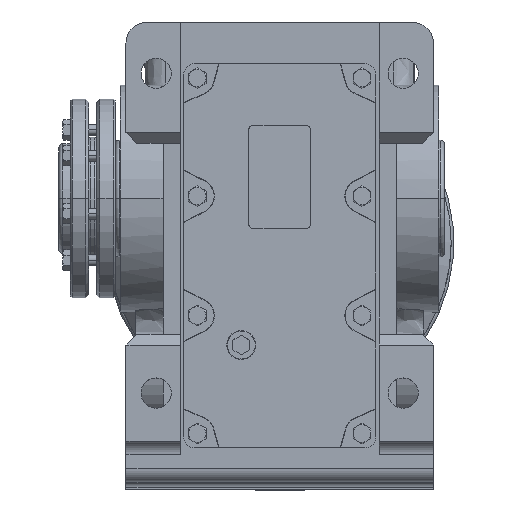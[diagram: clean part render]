
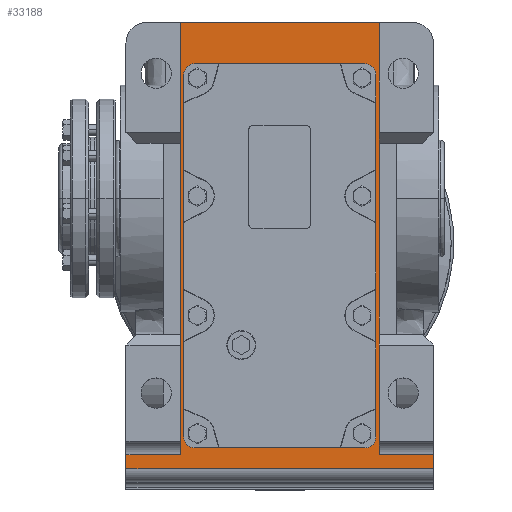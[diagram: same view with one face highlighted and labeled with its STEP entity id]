
A CAD part, top view. The second image highlights one B-rep face of the part: STEP entity #33188.
In plain terms, the highlighted planar face has unit normal (0, 0, 1).
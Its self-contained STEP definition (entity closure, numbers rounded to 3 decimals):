
#5424 = AXIS2_PLACEMENT_3D ( 'NONE', #39892, #39895, #39897 ) ;
#5425 = AXIS2_PLACEMENT_3D ( 'NONE', #39922, #39923, #39924 ) ;
#5426 = AXIS2_PLACEMENT_3D ( 'NONE', #39938, #39940, #39942 ) ;
#5427 = AXIS2_PLACEMENT_3D ( 'NONE', #39954, #39956, #39957 ) ;
#6303 = FACE_BOUND ( 'NONE', #50389, .T. ) ;
#6306 = FACE_OUTER_BOUND ( 'NONE', #50384, .T. ) ;
#11517 = VERTEX_POINT ( 'NONE', #33494 ) ;
#11524 = VERTEX_POINT ( 'NONE', #33501 ) ;
#11526 = VERTEX_POINT ( 'NONE', #33504 ) ;
#11527 = VERTEX_POINT ( 'NONE', #33506 ) ;
#11530 = VERTEX_POINT ( 'NONE', #33507 ) ;
#11532 = VERTEX_POINT ( 'NONE', #33509 ) ;
#11534 = VERTEX_POINT ( 'NONE', #33511 ) ;
#11536 = VERTEX_POINT ( 'NONE', #33512 ) ;
#11538 = VERTEX_POINT ( 'NONE', #33514 ) ;
#11540 = VERTEX_POINT ( 'NONE', #33516 ) ;
#11543 = VERTEX_POINT ( 'NONE', #33517 ) ;
#11547 = VERTEX_POINT ( 'NONE', #33521 ) ;
#15503 = EDGE_CURVE ( 'NONE', #11543, #32474, #36098, .T. ) ;
#15506 = EDGE_CURVE ( 'NONE', #32474, #32472, #36104, .T. ) ;
#15507 = EDGE_CURVE ( 'NONE', #11517, #32472, #36106, .T. ) ;
#19738 = CARTESIAN_POINT ( 'NONE',  ( 72.5, -212., 111. ) ) ;
#19739 = DIRECTION ( 'NONE',  ( 0., 1., 0. ) ) ;
#19743 = CARTESIAN_POINT ( 'NONE',  ( -72.5, 128., 111. ) ) ;
#19744 = DIRECTION ( 'NONE',  ( -1., 0., 0. ) ) ;
#19745 = CARTESIAN_POINT ( 'NONE',  ( -72.5, -212., 111. ) ) ;
#19747 = DIRECTION ( 'NONE',  ( 0., 1., 0. ) ) ;
#20707 = CARTESIAN_POINT ( 'NONE',  ( -112., -197., 111. ) ) ;
#20714 = CARTESIAN_POINT ( 'NONE',  ( 112., -187., 111. ) ) ;
#22378 = ORIENTED_EDGE ( 'NONE', *, *, #28115, .F. ) ;
#22379 = ORIENTED_EDGE ( 'NONE', *, *, #28113, .F. ) ;
#22380 = ORIENTED_EDGE ( 'NONE', *, *, #28112, .F. ) ;
#22381 = ORIENTED_EDGE ( 'NONE', *, *, #28109, .F. ) ;
#22382 = ORIENTED_EDGE ( 'NONE', *, *, #28108, .F. ) ;
#22383 = ORIENTED_EDGE ( 'NONE', *, *, #28105, .F. ) ;
#22384 = ORIENTED_EDGE ( 'NONE', *, *, #28104, .F. ) ;
#22385 = ORIENTED_EDGE ( 'NONE', *, *, #28101, .F. ) ;
#22386 = ORIENTED_EDGE ( 'NONE', *, *, #28096, .T. ) ;
#22387 = ORIENTED_EDGE ( 'NONE', *, *, #28094, .T. ) ;
#22388 = ORIENTED_EDGE ( 'NONE', *, *, #15503, .T. ) ;
#22389 = ORIENTED_EDGE ( 'NONE', *, *, #15506, .T. ) ;
#22390 = ORIENTED_EDGE ( 'NONE', *, *, #15507, .F. ) ;
#22391 = ORIENTED_EDGE ( 'NONE', *, *, #28122, .T. ) ;
#22392 = ORIENTED_EDGE ( 'NONE', *, *, #28207, .F. ) ;
#22394 = ORIENTED_EDGE ( 'NONE', *, *, #28092, .T. ) ;
#28092 = EDGE_CURVE ( 'NONE', #47338, #11547, #48305, .T. ) ;
#28094 = EDGE_CURVE ( 'NONE', #47346, #11543, #48308, .T. ) ;
#28096 = EDGE_CURVE ( 'NONE', #11547, #47346, #48311, .T. ) ;
#28101 = EDGE_CURVE ( 'NONE', #11536, #11532, #48320, .T. ) ;
#28104 = EDGE_CURVE ( 'NONE', #11532, #11530, #48304, .T. ) ;
#28105 = EDGE_CURVE ( 'NONE', #11530, #11538, #48328, .T. ) ;
#28108 = EDGE_CURVE ( 'NONE', #11538, #11526, #48329, .T. ) ;
#28109 = EDGE_CURVE ( 'NONE', #11526, #11534, #48335, .T. ) ;
#28112 = EDGE_CURVE ( 'NONE', #11534, #11524, #48340, .T. ) ;
#28113 = EDGE_CURVE ( 'NONE', #11524, #11540, #48342, .T. ) ;
#28115 = EDGE_CURVE ( 'NONE', #11540, #11536, #48345, .T. ) ;
#28122 = EDGE_CURVE ( 'NONE', #11517, #11527, #48357, .T. ) ;
#28207 = EDGE_CURVE ( 'NONE', #47338, #11527, #48488, .T. ) ;
#32472 = VERTEX_POINT ( 'NONE', #40847 ) ;
#32474 = VERTEX_POINT ( 'NONE', #40849 ) ;
#33188 = ADVANCED_FACE ( 'NONE', ( #6303, #6306 ), #42612, .F. ) ;
#33494 = CARTESIAN_POINT ( 'NONE',  ( -72.5, -187., 111. ) ) ;
#33501 = CARTESIAN_POINT ( 'NONE',  ( -62., -182., 111. ) ) ;
#33504 = CARTESIAN_POINT ( 'NONE',  ( -70., 90., 111. ) ) ;
#33506 = CARTESIAN_POINT ( 'NONE',  ( -112., -187., 111. ) ) ;
#33507 = CARTESIAN_POINT ( 'NONE',  ( 62., 98., 111. ) ) ;
#33509 = CARTESIAN_POINT ( 'NONE',  ( 70., 90., 111. ) ) ;
#33511 = CARTESIAN_POINT ( 'NONE',  ( -70., -174., 111. ) ) ;
#33512 = CARTESIAN_POINT ( 'NONE',  ( 70., -174., 111. ) ) ;
#33514 = CARTESIAN_POINT ( 'NONE',  ( -62., 98., 111. ) ) ;
#33516 = CARTESIAN_POINT ( 'NONE',  ( 62., -182., 111. ) ) ;
#33517 = CARTESIAN_POINT ( 'NONE',  ( 72.5, -187., 111. ) ) ;
#33521 = CARTESIAN_POINT ( 'NONE',  ( 112., -197., 111. ) ) ;
#36098 = LINE ( 'NONE', #19738, #36101 ) ;
#36101 = VECTOR ( 'NONE', #19739, 1000. ) ;
#36104 = LINE ( 'NONE', #19743, #36107 ) ;
#36106 = LINE ( 'NONE', #19745, #36109 ) ;
#36107 = VECTOR ( 'NONE', #19744, 1000. ) ;
#36109 = VECTOR ( 'NONE', #19747, 1000. ) ;
#39772 = DIRECTION ( 'NONE',  ( 1., 0., 0. ) ) ;
#39775 = CARTESIAN_POINT ( 'NONE',  ( 112., -197., 111. ) ) ;
#39787 = CARTESIAN_POINT ( 'NONE',  ( -72.5, -187., 111. ) ) ;
#39789 = DIRECTION ( 'NONE',  ( -1., 0., 0. ) ) ;
#39804 = CARTESIAN_POINT ( 'NONE',  ( 112., -181., 111. ) ) ;
#39808 = DIRECTION ( 'NONE',  ( 0., 1., 0. ) ) ;
#39822 = DIRECTION ( 'NONE',  ( -1., 0., 0. ) ) ;
#39865 = CARTESIAN_POINT ( 'NONE',  ( 70., 90., 111. ) ) ;
#39870 = DIRECTION ( 'NONE',  ( 0., 1., 0. ) ) ;
#39882 = CARTESIAN_POINT ( 'NONE',  ( 62., 98., 111. ) ) ;
#39892 = CARTESIAN_POINT ( 'NONE',  ( 62., 90., 111. ) ) ;
#39895 = DIRECTION ( 'NONE',  ( 0., 0., 1. ) ) ;
#39897 = DIRECTION ( 'NONE',  ( 1., 0., 0. ) ) ;
#39899 = DIRECTION ( 'NONE',  ( 0., -1., 0. ) ) ;
#39910 = CARTESIAN_POINT ( 'NONE',  ( -70., 90., 111. ) ) ;
#39919 = CARTESIAN_POINT ( 'NONE',  ( 62., -182., 111. ) ) ;
#39921 = DIRECTION ( 'NONE',  ( 1., 0., 0. ) ) ;
#39922 = CARTESIAN_POINT ( 'NONE',  ( -62., 90., 111. ) ) ;
#39923 = DIRECTION ( 'NONE',  ( 0., 0., 1. ) ) ;
#39924 = DIRECTION ( 'NONE',  ( -1., 0., 0. ) ) ;
#39938 = CARTESIAN_POINT ( 'NONE',  ( -62., -174., 111. ) ) ;
#39940 = DIRECTION ( 'NONE',  ( 0., 0., 1. ) ) ;
#39942 = DIRECTION ( 'NONE',  ( 1., 0., 0. ) ) ;
#39954 = CARTESIAN_POINT ( 'NONE',  ( 62., -174., 111. ) ) ;
#39956 = DIRECTION ( 'NONE',  ( 0., 0., 1. ) ) ;
#39957 = DIRECTION ( 'NONE',  ( 1., 0., 0. ) ) ;
#39971 = DIRECTION ( 'NONE',  ( -1., 0., 0. ) ) ;
#39977 = CARTESIAN_POINT ( 'NONE',  ( -72.5, -187., 111. ) ) ;
#40569 = CARTESIAN_POINT ( 'NONE',  ( -112., -181., 111. ) ) ;
#40571 = DIRECTION ( 'NONE',  ( 0., 1., 0. ) ) ;
#40847 = CARTESIAN_POINT ( 'NONE',  ( -72.5, 128., 111. ) ) ;
#40849 = CARTESIAN_POINT ( 'NONE',  ( 72.5, 128., 111. ) ) ;
#42608 = CARTESIAN_POINT ( 'NONE',  ( -72.5, -212., 111. ) ) ;
#42612 = PLANE ( 'NONE',  #50545 ) ;
#42617 = DIRECTION ( 'NONE',  ( 0., 0., -1. ) ) ;
#42618 = DIRECTION ( 'NONE',  ( 0., 1., 0. ) ) ;
#47338 = VERTEX_POINT ( 'NONE', #20707 ) ;
#47346 = VERTEX_POINT ( 'NONE', #20714 ) ;
#48304 = CIRCLE ( 'NONE', #5424, 8. ) ;
#48305 = LINE ( 'NONE', #39775, #48307 ) ;
#48307 = VECTOR ( 'NONE', #39772, 1000. ) ;
#48308 = LINE ( 'NONE', #39787, #48310 ) ;
#48310 = VECTOR ( 'NONE', #39789, 1000. ) ;
#48311 = LINE ( 'NONE', #39804, #48313 ) ;
#48313 = VECTOR ( 'NONE', #39808, 1000. ) ;
#48320 = LINE ( 'NONE', #39865, #48323 ) ;
#48323 = VECTOR ( 'NONE', #39870, 1000. ) ;
#48328 = LINE ( 'NONE', #39882, #48330 ) ;
#48329 = CIRCLE ( 'NONE', #5425, 8. ) ;
#48330 = VECTOR ( 'NONE', #39822, 1000. ) ;
#48335 = LINE ( 'NONE', #39910, #48337 ) ;
#48337 = VECTOR ( 'NONE', #39899, 1000. ) ;
#48340 = CIRCLE ( 'NONE', #5426, 8. ) ;
#48342 = LINE ( 'NONE', #39919, #48344 ) ;
#48344 = VECTOR ( 'NONE', #39921, 1000. ) ;
#48345 = CIRCLE ( 'NONE', #5427, 8. ) ;
#48357 = LINE ( 'NONE', #39977, #48359 ) ;
#48359 = VECTOR ( 'NONE', #39971, 1000. ) ;
#48488 = LINE ( 'NONE', #40569, #48490 ) ;
#48490 = VECTOR ( 'NONE', #40571, 1000. ) ;
#50384 = EDGE_LOOP ( 'NONE', ( #22386, #22387, #22388, #22389, #22390, #22391, #22392, #22394 ) ) ;
#50389 = EDGE_LOOP ( 'NONE', ( #22378, #22379, #22380, #22381, #22382, #22383, #22384, #22385 ) ) ;
#50545 = AXIS2_PLACEMENT_3D ( 'NONE', #42608, #42617, #42618 ) ;
